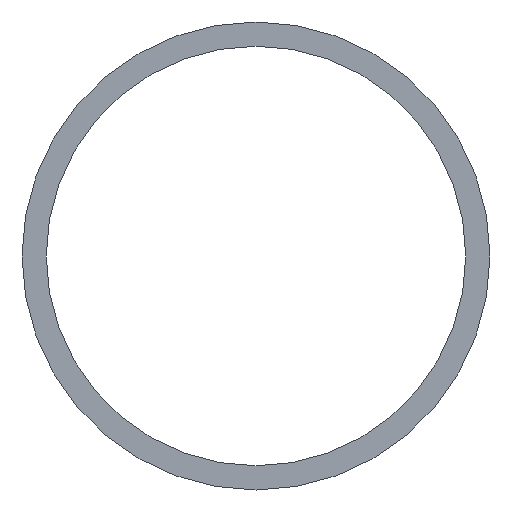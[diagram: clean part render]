
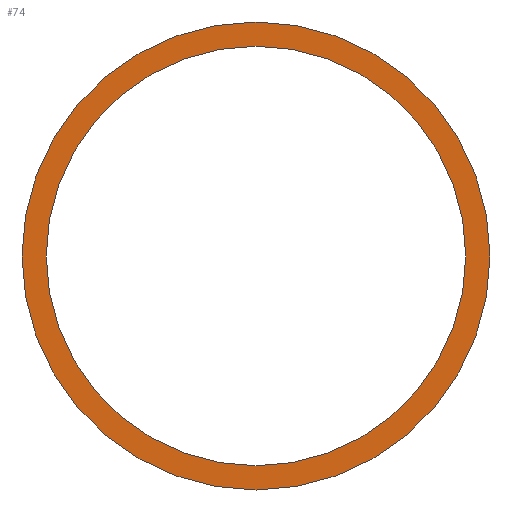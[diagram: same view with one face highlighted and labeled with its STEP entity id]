
A CAD part, left-side view. The second image highlights one B-rep face of the part: STEP entity #74.
In plain terms, the highlighted planar face has unit normal (-1, 0, 0).
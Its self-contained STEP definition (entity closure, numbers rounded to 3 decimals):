
#1 = ORIENTED_EDGE ( 'NONE', *, *, #190, .F. ) ;
#3 = PLANE ( 'NONE',  #124 ) ;
#8 = CIRCLE ( 'NONE', #202, 21.65 ) ;
#9 = DIRECTION ( 'NONE',  ( 0., -1., 0. ) ) ;
#12 = ORIENTED_EDGE ( 'NONE', *, *, #92, .F. ) ;
#15 = CIRCLE ( 'NONE', #159, 24.15 ) ;
#17 = EDGE_LOOP ( 'NONE', ( #88, #122 ) ) ;
#21 = CARTESIAN_POINT ( 'NONE',  ( 20195., -1818., 5264.2 ) ) ;
#33 = CARTESIAN_POINT ( 'NONE',  ( 20195., -1818., 5285.85 ) ) ;
#36 = CARTESIAN_POINT ( 'NONE',  ( 20195., -1818., 5285.85 ) ) ;
#40 = EDGE_CURVE ( 'NONE', #143, #146, #96, .T. ) ;
#42 = CARTESIAN_POINT ( 'NONE',  ( 20195., -1818., 5307.5 ) ) ;
#45 = CARTESIAN_POINT ( 'NONE',  ( 20195., -1818., 5310. ) ) ;
#47 = VERTEX_POINT ( 'NONE', #42 ) ;
#55 = FACE_BOUND ( 'NONE', #210, .T. ) ;
#67 = VERTEX_POINT ( 'NONE', #21 ) ;
#73 = DIRECTION ( 'NONE',  ( 0., -1., 0. ) ) ;
#74 = ADVANCED_FACE ( 'NONE', ( #203, #55 ), #3, .T. ) ;
#75 = AXIS2_PLACEMENT_3D ( 'NONE', #123, #168, #73 ) ;
#81 = DIRECTION ( 'NONE',  ( -1., 0., 0. ) ) ;
#88 = ORIENTED_EDGE ( 'NONE', *, *, #40, .T. ) ;
#92 = EDGE_CURVE ( 'NONE', #67, #47, #8, .T. ) ;
#95 = EDGE_CURVE ( 'NONE', #146, #143, #15, .T. ) ;
#96 = CIRCLE ( 'NONE', #75, 24.15 ) ;
#100 = DIRECTION ( 'NONE',  ( -1., 0., 0. ) ) ;
#106 = DIRECTION ( 'NONE',  ( 0., -1., 0. ) ) ;
#107 = CIRCLE ( 'NONE', #199, 21.65 ) ;
#122 = ORIENTED_EDGE ( 'NONE', *, *, #95, .T. ) ;
#123 = CARTESIAN_POINT ( 'NONE',  ( 20195., -1818., 5285.85 ) ) ;
#124 = AXIS2_PLACEMENT_3D ( 'NONE', #36, #126, #106 ) ;
#126 = DIRECTION ( 'NONE',  ( -1., 0., 0. ) ) ;
#128 = DIRECTION ( 'NONE',  ( -1., 0., 0. ) ) ;
#143 = VERTEX_POINT ( 'NONE', #45 ) ;
#146 = VERTEX_POINT ( 'NONE', #197 ) ;
#159 = AXIS2_PLACEMENT_3D ( 'NONE', #163, #128, #175 ) ;
#163 = CARTESIAN_POINT ( 'NONE',  ( 20195., -1818., 5285.85 ) ) ;
#165 = DIRECTION ( 'NONE',  ( 0., -1., 0. ) ) ;
#168 = DIRECTION ( 'NONE',  ( -1., 0., 0. ) ) ;
#175 = DIRECTION ( 'NONE',  ( 0., -1., 0. ) ) ;
#189 = CARTESIAN_POINT ( 'NONE',  ( 20195., -1818., 5285.85 ) ) ;
#190 = EDGE_CURVE ( 'NONE', #47, #67, #107, .T. ) ;
#197 = CARTESIAN_POINT ( 'NONE',  ( 20195., -1818., 5261.7 ) ) ;
#199 = AXIS2_PLACEMENT_3D ( 'NONE', #33, #100, #165 ) ;
#202 = AXIS2_PLACEMENT_3D ( 'NONE', #189, #81, #9 ) ;
#203 = FACE_OUTER_BOUND ( 'NONE', #17, .T. ) ;
#210 = EDGE_LOOP ( 'NONE', ( #1, #12 ) ) ;
